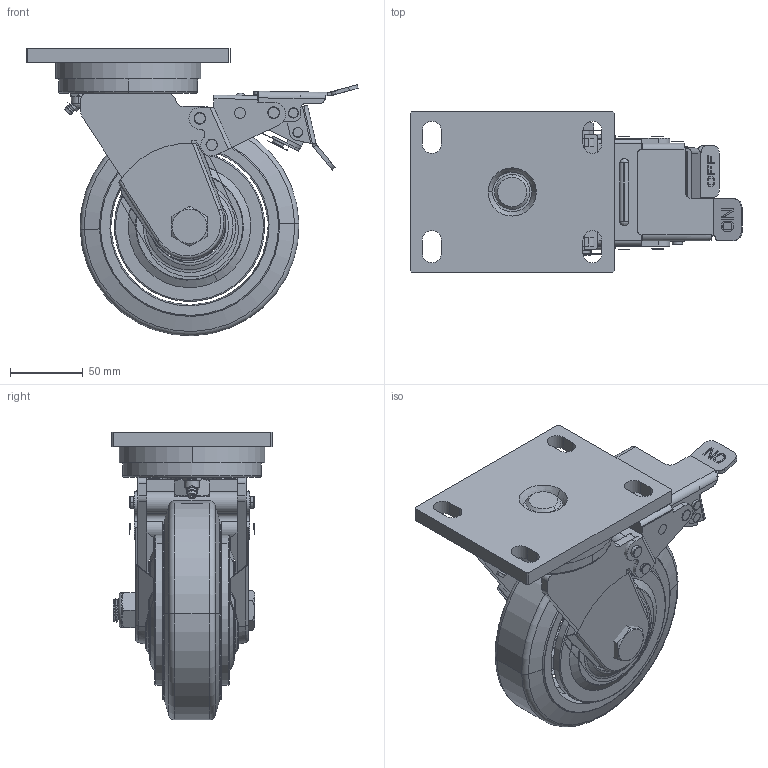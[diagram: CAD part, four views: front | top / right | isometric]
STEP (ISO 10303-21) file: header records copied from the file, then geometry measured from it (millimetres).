
FILE_DESCRIPTION((''),'2;1');
FILE_NAME('PRT0007','2025-04-14T14:02:23',('Administrator'),(''),'CREO PARAMETRIC BY PTC INC, 2022124','CREO PARAMETRIC BY PTC INC, 2022124','');
FILE_SCHEMA(('CONFIG_CONTROL_DESIGN','GEOMETRIC_VALIDATION_PROPERTIES_MIM'));
Length unit declared in the file: millimetre
Products named in the file (1): PRT0007
Bounding box: 227.45 x 110 x 196.97 mm (x, y, z)
Surface area: 180535.6 mm2 (no closed solid volume)
Topology: 0 solids, 69 shells, 337 faces, 1476 edges, 1192 vertices
Faces by surface type: plane 166, cylinder 87, cone 42, torus 36, bspline 5, extrusion 1
Entity records: 19199 total; most frequent: CARTESIAN_POINT 4982, DIRECTION 2419, ORIENTED_EDGE 2016, EDGE_CURVE 1476, VERTEX_POINT 1192, AXIS2_PLACEMENT_3D 823, VECTOR 773, LINE 772
